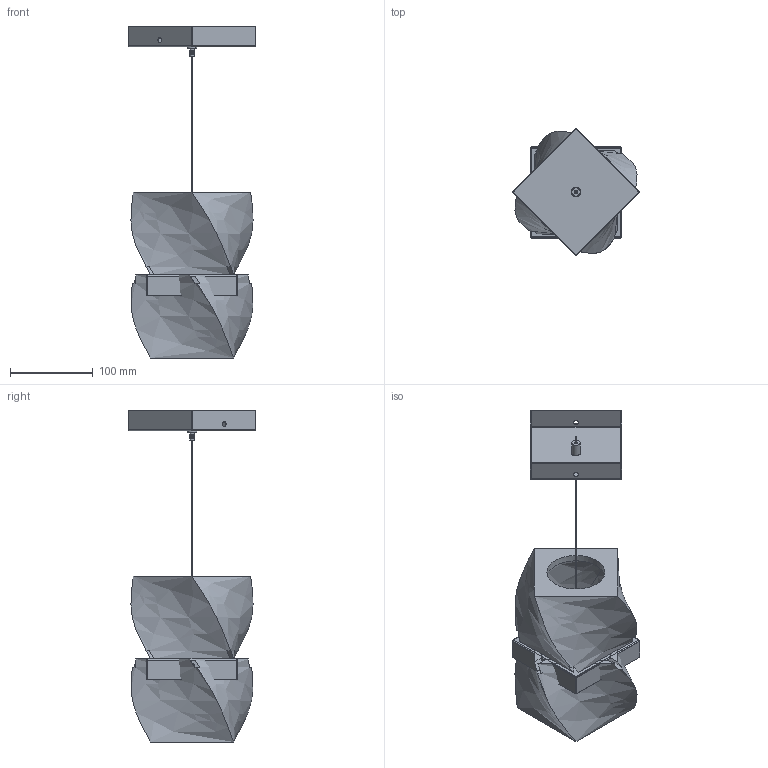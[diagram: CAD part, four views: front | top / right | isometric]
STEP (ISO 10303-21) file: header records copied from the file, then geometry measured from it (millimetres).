
FILE_DESCRIPTION( ( 'STEP AP203' ), '1' );
FILE_NAME( '//srvbf/BF Disegni/ARRIGHI FRANCESCA/AUREA/AUREA-Q-S.stp', '2020-10-16T06:33:47', ( ' ' ), ( ' ' ), 'XStep 1.0', ' ', ' ' );
FILE_SCHEMA( ( 'CONFIG_CONTROL_DESIGN) ( )' ) );
Length unit declared in the file: metre
Products named in the file (5): Assem1; 1; 2; 3; 4
Bounding box: 154.15 x 154.15 x 400 mm (x, y, z)
Volume: 734438 mm3; surface area: 279378.2 mm2
Topology: 8 solids, 8 shells, 318 faces, 830 edges, 538 vertices
Faces by surface type: cylinder 164, plane 122, extrusion 16, bspline 8, offset 8
Full cylindrical faces by diameter (mm): 1 x2, 2 x2, 4 x4, 5 x8, 6 x4, 10 x4, 12 x2, 70 x2
Entity records: 5468 total; most frequent: CARTESIAN_POINT 1352, DIRECTION 832, ORIENTED_EDGE 788, EDGE_CURVE 394, AXIS2_PLACEMENT_3D 330, VERTEX_POINT 262, EDGE_LOOP 192, FACE_OUTER_BOUND 173
